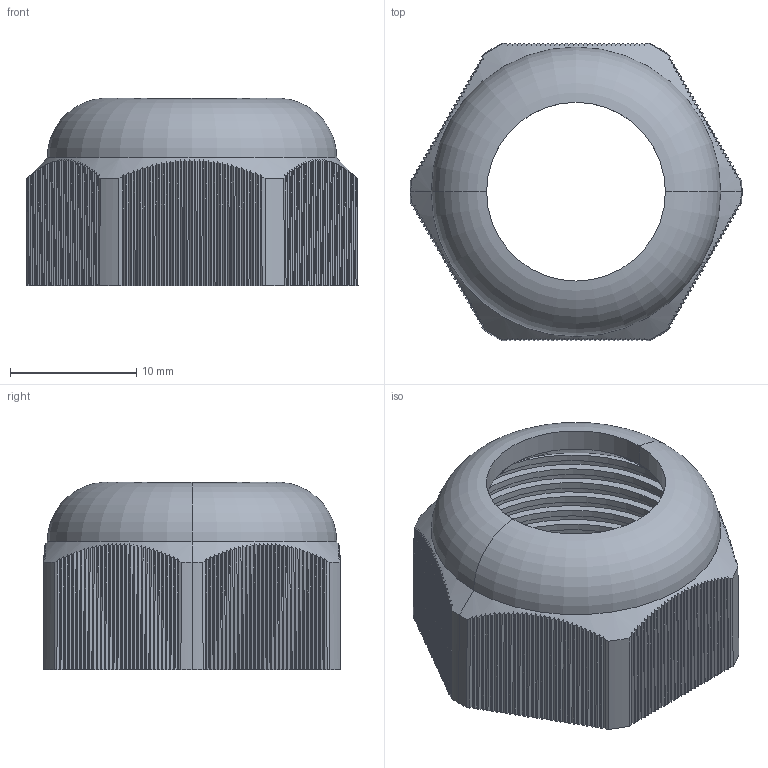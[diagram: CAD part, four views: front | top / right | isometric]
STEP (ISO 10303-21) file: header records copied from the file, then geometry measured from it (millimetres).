
FILE_DESCRIPTION (( 'STEP AP203' ), '1' );
FILE_NAME ('plc-pg-16-00.00.002 Ãàéêà öàíãîâàÿ (PG16) #collet nut (PG16)#.STEP', '2021-06-02T06:55:07', ( '' ), ( '' ), 'SwSTEP 2.0', 'SolidWorks 2021', '' );
FILE_SCHEMA (( 'CONFIG_CONTROL_DESIGN' ));
Length unit declared in the file: millimetre
Products named in the file (1): plc-pg-16-00.00.002 Ãàéêà öàíãîâàÿ (PG16) #collet nut (PG16)#
Bounding box: 26.32 x 23.62 x 14.85 mm (x, y, z)
Volume: 2052.7 mm3; surface area: 3146 mm2
Topology: 1 solids, 1 shells, 613 faces, 1817 edges, 1207 vertices
Faces by surface type: plane 556, cone 34, torus 11, cylinder 6, bspline 6
Entity records: 26057 total; most frequent: CARTESIAN_POINT 10812, ORIENTED_EDGE 3634, DIRECTION 2447, EDGE_CURVE 1817, VERTEX_POINT 1207, VECTOR 1121, LINE 1121, AXIS2_PLACEMENT_3D 663
